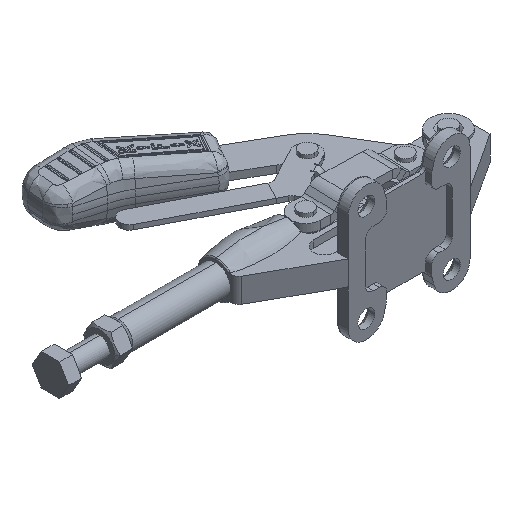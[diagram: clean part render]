
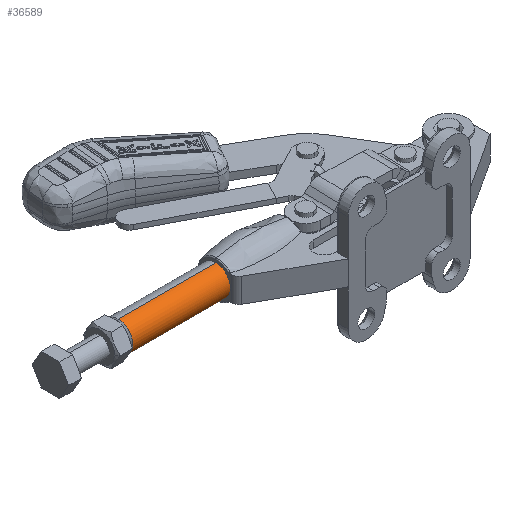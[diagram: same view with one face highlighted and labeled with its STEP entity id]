
A CAD part, isometric view. The second image highlights one B-rep face of the part: STEP entity #36589.
In plain terms, the highlighted cylindrical face has radius 6 mm (diameter 12 mm), a partial arc.
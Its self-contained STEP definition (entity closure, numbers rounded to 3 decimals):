
#739 = EDGE_CURVE ( 'NONE', #3677, #15415, #34719, .T. ) ;
#1406 = DIRECTION ( 'NONE',  ( 0., -1., 0. ) ) ;
#1955 = CARTESIAN_POINT ( 'NONE',  ( 0., 84., 0. ) ) ;
#2486 = DIRECTION ( 'NONE',  ( 0., 1., 0. ) ) ;
#2801 = VERTEX_POINT ( 'NONE', #24668 ) ;
#2825 = CARTESIAN_POINT ( 'NONE',  ( 0., 83., 0. ) ) ;
#3170 = CIRCLE ( 'NONE', #32644, 6. ) ;
#3677 = VERTEX_POINT ( 'NONE', #21803 ) ;
#4182 = DIRECTION ( 'NONE',  ( 0., -1., 0. ) ) ;
#4975 = CARTESIAN_POINT ( 'NONE',  ( 0., 14., 0. ) ) ;
#4994 = CARTESIAN_POINT ( 'NONE',  ( -5.454, 14., 2.5 ) ) ;
#5263 = CARTESIAN_POINT ( 'NONE',  ( -5.454, 2., -2.5 ) ) ;
#5277 = ORIENTED_EDGE ( 'NONE', *, *, #739, .T. ) ;
#6352 = DIRECTION ( 'NONE',  ( 0., 0., 1. ) ) ;
#7724 = EDGE_CURVE ( 'NONE', #15415, #37331, #20982, .T. ) ;
#8488 = DIRECTION ( 'NONE',  ( 0., 0., 1. ) ) ;
#8746 = VERTEX_POINT ( 'NONE', #5263 ) ;
#9997 = CARTESIAN_POINT ( 'NONE',  ( -5.454, 84., 2.5 ) ) ;
#10245 = CARTESIAN_POINT ( 'NONE',  ( -5.454, 84., -2.5 ) ) ;
#10341 = ORIENTED_EDGE ( 'NONE', *, *, #34390, .T. ) ;
#11710 = EDGE_CURVE ( 'NONE', #24585, #29158, #14402, .T. ) ;
#13776 = DIRECTION ( 'NONE',  ( 0., -1., 0. ) ) ;
#14138 = VECTOR ( 'NONE', #4182, 1000. ) ;
#14402 = LINE ( 'NONE', #22444, #42461 ) ;
#15022 = ORIENTED_EDGE ( 'NONE', *, *, #32036, .T. ) ;
#15415 = VERTEX_POINT ( 'NONE', #4994 ) ;
#15839 = CARTESIAN_POINT ( 'NONE',  ( 0., 14., -6. ) ) ;
#15935 = DIRECTION ( 'NONE',  ( 0., 0., -1. ) ) ;
#16956 = CARTESIAN_POINT ( 'NONE',  ( 0., 83., 6. ) ) ;
#17446 = CIRCLE ( 'NONE', #23527, 6. ) ;
#17531 = VERTEX_POINT ( 'NONE', #16956 ) ;
#17886 = FACE_OUTER_BOUND ( 'NONE', #44100, .T. ) ;
#19255 = LINE ( 'NONE', #10245, #28634 ) ;
#20776 = DIRECTION ( 'NONE',  ( 0., 1., 0. ) ) ;
#20982 = CIRCLE ( 'NONE', #26187, 6. ) ;
#21803 = CARTESIAN_POINT ( 'NONE',  ( -5.454, 2., 2.5 ) ) ;
#22444 = CARTESIAN_POINT ( 'NONE',  ( 0., 84., -6. ) ) ;
#23000 = AXIS2_PLACEMENT_3D ( 'NONE', #1955, #44061, #15935 ) ;
#23478 = LINE ( 'NONE', #43058, #14138 ) ;
#23516 = CARTESIAN_POINT ( 'NONE',  ( 0., 2., 0. ) ) ;
#23527 = AXIS2_PLACEMENT_3D ( 'NONE', #2825, #27430, #6352 ) ;
#23915 = ORIENTED_EDGE ( 'NONE', *, *, #11710, .T. ) ;
#23927 = CYLINDRICAL_SURFACE ( 'NONE', #23000, 6. ) ;
#24585 = VERTEX_POINT ( 'NONE', #41394 ) ;
#24668 = CARTESIAN_POINT ( 'NONE',  ( -5.454, 14., -2.5 ) ) ;
#26187 = AXIS2_PLACEMENT_3D ( 'NONE', #4975, #29583, #8488 ) ;
#27077 = DIRECTION ( 'NONE',  ( 0., 0., 1. ) ) ;
#27391 = CARTESIAN_POINT ( 'NONE',  ( 0., 14., 6. ) ) ;
#27430 = DIRECTION ( 'NONE',  ( 0., -1., 0. ) ) ;
#28207 = AXIS2_PLACEMENT_3D ( 'NONE', #23516, #2486, #27077 ) ;
#28634 = VECTOR ( 'NONE', #13776, 1000. ) ;
#28800 = ORIENTED_EDGE ( 'NONE', *, *, #29504, .F. ) ;
#29158 = VERTEX_POINT ( 'NONE', #15839 ) ;
#29504 = EDGE_CURVE ( 'NONE', #17531, #37331, #23478, .T. ) ;
#29583 = DIRECTION ( 'NONE',  ( 0., 1., 0. ) ) ;
#32036 = EDGE_CURVE ( 'NONE', #8746, #3677, #36576, .T. ) ;
#32644 = AXIS2_PLACEMENT_3D ( 'NONE', #41856, #20776, #45371 ) ;
#33053 = EDGE_CURVE ( 'NONE', #29158, #2801, #3170, .T. ) ;
#34374 = ORIENTED_EDGE ( 'NONE', *, *, #33053, .T. ) ;
#34390 = EDGE_CURVE ( 'NONE', #17531, #24585, #17446, .T. ) ;
#34634 = DIRECTION ( 'NONE',  ( 0., 1., 0. ) ) ;
#34719 = LINE ( 'NONE', #9997, #42942 ) ;
#35266 = ORIENTED_EDGE ( 'NONE', *, *, #44739, .T. ) ;
#36576 = CIRCLE ( 'NONE', #28207, 6. ) ;
#36589 = ADVANCED_FACE ( 'NONE', ( #17886 ), #23927, .T. ) ;
#37331 = VERTEX_POINT ( 'NONE', #27391 ) ;
#41394 = CARTESIAN_POINT ( 'NONE',  ( 0., 83., -6. ) ) ;
#41856 = CARTESIAN_POINT ( 'NONE',  ( 0., 14., 0. ) ) ;
#42366 = ORIENTED_EDGE ( 'NONE', *, *, #7724, .T. ) ;
#42461 = VECTOR ( 'NONE', #1406, 1000. ) ;
#42942 = VECTOR ( 'NONE', #34634, 1000. ) ;
#43058 = CARTESIAN_POINT ( 'NONE',  ( 0., 84., 6. ) ) ;
#44061 = DIRECTION ( 'NONE',  ( 0., -1., 0. ) ) ;
#44100 = EDGE_LOOP ( 'NONE', ( #28800, #10341, #23915, #34374, #35266, #15022, #5277, #42366 ) ) ;
#44739 = EDGE_CURVE ( 'NONE', #2801, #8746, #19255, .T. ) ;
#45371 = DIRECTION ( 'NONE',  ( 0., 0., 1. ) ) ;
